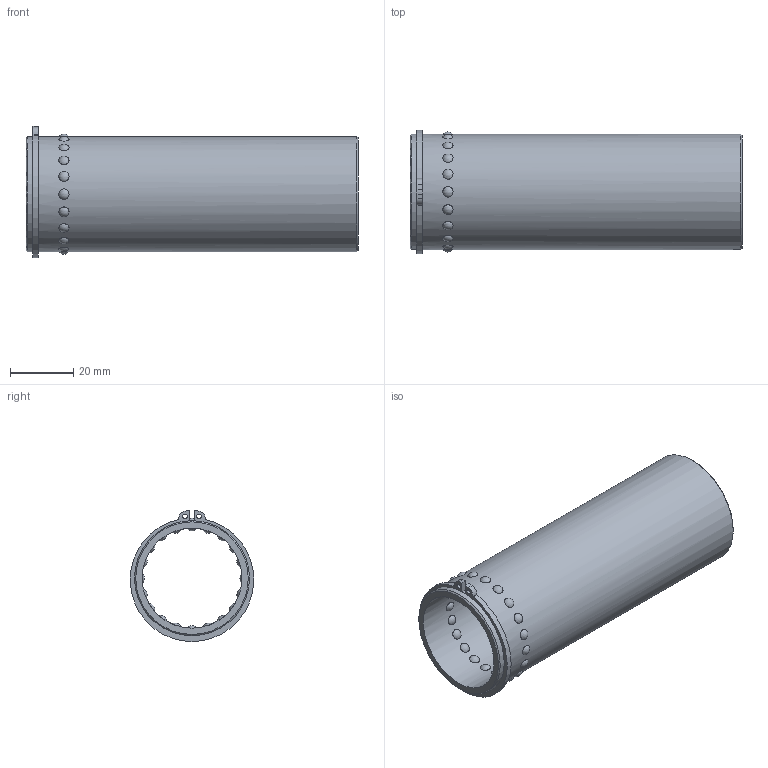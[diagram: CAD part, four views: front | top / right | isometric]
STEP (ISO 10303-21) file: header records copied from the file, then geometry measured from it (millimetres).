
FILE_DESCRIPTION(/* description */ ('Impex Ready, www.impex-ready.pl'),/* implementation_level */ '2;1');
FILE_NAME(/* name */ 'C:\Users\VIKKY\Nextcloud\SM\projekt 10 - części na stronę internetową\Pliki_3D_new\276 Koszyk GSA\276 GSA_STEP\GSA30105.ipt.step',/* time_stamp */ '2021-12-22T11:58:48+01:00',/* author */ ('SM'),/* organization */ (''),/* preprocessor_version */ 'ST-DEVELOPER v18.1',/* originating_system */ 'Autodesk Inventor 2021',/* authorisation */ '');
FILE_SCHEMA (('AUTOMOTIVE_DESIGN { 1 0 10303 214 3 1 1 }'));
Length unit declared in the file: millimetre
Products named in the file (1): GSA30105
Bounding box: 105 x 39.09 x 41.48 mm (x, y, z)
Volume: 27322.3 mm3; surface area: 23936.6 mm2
Topology: 2 solids, 2 shells, 64 faces, 98 edges, 78 vertices
Faces by surface type: sphere 40, plane 12, cylinder 10, cone 2
Full cylindrical faces by diameter (mm): 1.5 x2, 31.6 x1, 35.4 x1, 36.4 x2
Entity records: 3049 total; most frequent: CARTESIAN_POINT 1725, DIRECTION 206, ORIENTED_EDGE 196, EDGE_LOOP 110, EDGE_CURVE 98, AXIS2_PLACEMENT_3D 87, VERTEX_POINT 78, FACE_OUTER_BOUND 64
